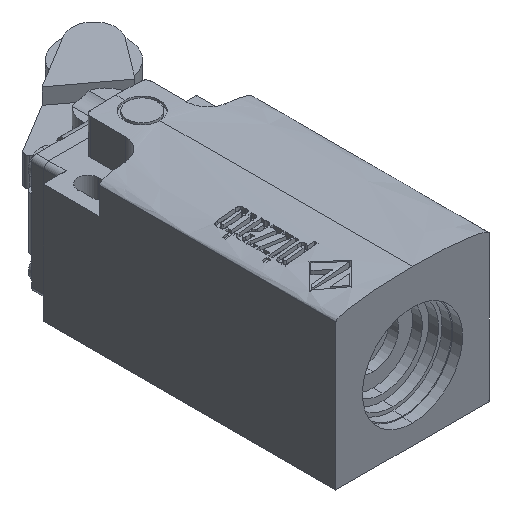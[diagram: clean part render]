
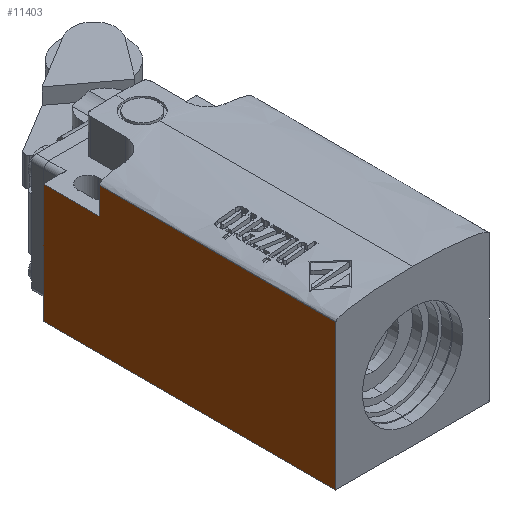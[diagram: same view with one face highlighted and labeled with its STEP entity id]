
A CAD part, isometric view. The second image highlights one B-rep face of the part: STEP entity #11403.
In plain terms, the highlighted planar face has unit normal (-1, 0, 0).
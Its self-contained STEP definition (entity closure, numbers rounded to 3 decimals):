
#134 = EDGE_CURVE ( 'NONE', #14176, #12741, #16544, .T. ) ;
#380 = LINE ( 'NONE', #8741, #12226 ) ;
#568 = DIRECTION ( 'NONE',  ( 0., -1., 0. ) ) ;
#1736 = PLANE ( 'NONE',  #9473 ) ;
#2152 = CARTESIAN_POINT ( 'NONE',  ( -15.6, -31.5, -12.2 ) ) ;
#2350 = CARTESIAN_POINT ( 'NONE',  ( -15.6, 16.7, 17.4 ) ) ;
#2390 = LINE ( 'NONE', #3512, #3809 ) ;
#2435 = VERTEX_POINT ( 'NONE', #5510 ) ;
#2931 = CARTESIAN_POINT ( 'NONE',  ( -15.6, 16.7, 12. ) ) ;
#3374 = LINE ( 'NONE', #14732, #14253 ) ;
#3403 = FACE_OUTER_BOUND ( 'NONE', #14388, .T. ) ;
#3508 = DIRECTION ( 'NONE',  ( 0., 1., 0. ) ) ;
#3512 = CARTESIAN_POINT ( 'NONE',  ( -15.6, -31.5, 19.4 ) ) ;
#3700 = ORIENTED_EDGE ( 'NONE', *, *, #13798, .T. ) ;
#3809 = VECTOR ( 'NONE', #5310, 1000. ) ;
#4114 = LINE ( 'NONE', #6755, #12423 ) ;
#5191 = EDGE_CURVE ( 'NONE', #5455, #7265, #3374, .T. ) ;
#5260 = CARTESIAN_POINT ( 'NONE',  ( -15.6, -15.433, 17.4 ) ) ;
#5310 = DIRECTION ( 'NONE',  ( 0., 0., -1. ) ) ;
#5455 = VERTEX_POINT ( 'NONE', #12499 ) ;
#5510 = CARTESIAN_POINT ( 'NONE',  ( -15.6, 28., -12.2 ) ) ;
#6660 = CARTESIAN_POINT ( 'NONE',  ( -15.6, -31.5, 17.4 ) ) ;
#6755 = CARTESIAN_POINT ( 'NONE',  ( -15.6, 16.7, 12. ) ) ;
#6946 = CARTESIAN_POINT ( 'NONE',  ( -15.6, -31.5, -12.2 ) ) ;
#7265 = VERTEX_POINT ( 'NONE', #2931 ) ;
#7442 = DIRECTION ( 'NONE',  ( 0., 0., -1. ) ) ;
#7905 = EDGE_CURVE ( 'NONE', #7265, #12741, #4114, .T. ) ;
#8135 = CARTESIAN_POINT ( 'NONE',  ( -15.6, 16.7, 17.4 ) ) ;
#8356 = ORIENTED_EDGE ( 'NONE', *, *, #7905, .F. ) ;
#8741 = CARTESIAN_POINT ( 'NONE',  ( -15.6, 28., 19.4 ) ) ;
#9093 = VECTOR ( 'NONE', #16884, 1000. ) ;
#9473 = AXIS2_PLACEMENT_3D ( 'NONE', #14962, #10641, #3508 ) ;
#10168 = ORIENTED_EDGE ( 'NONE', *, *, #5191, .F. ) ;
#10641 = DIRECTION ( 'NONE',  ( 1., 0., 0. ) ) ;
#11403 = ADVANCED_FACE ( 'NONE', ( #3403 ), #1736, .F. ) ;
#12226 = VECTOR ( 'NONE', #7442, 1000. ) ;
#12287 = CARTESIAN_POINT ( 'NONE',  ( -15.6, -31.5, 17.4 ) ) ;
#12315 = VERTEX_POINT ( 'NONE', #2152 ) ;
#12423 = VECTOR ( 'NONE', #18209, 1000. ) ;
#12499 = CARTESIAN_POINT ( 'NONE',  ( -15.6, 28., 12. ) ) ;
#12741 = VERTEX_POINT ( 'NONE', #8135 ) ;
#13549 = EDGE_CURVE ( 'NONE', #14176, #12315, #2390, .T. ) ;
#13798 = EDGE_CURVE ( 'NONE', #5455, #2435, #380, .T. ) ;
#13881 = CARTESIAN_POINT ( 'NONE',  ( -15.6, 0.633, 17.4 ) ) ;
#14176 = VERTEX_POINT ( 'NONE', #12287 ) ;
#14253 = VECTOR ( 'NONE', #568, 1000. ) ;
#14388 = EDGE_LOOP ( 'NONE', ( #17444, #14528, #8356, #10168, #3700, #18479 ) ) ;
#14528 = ORIENTED_EDGE ( 'NONE', *, *, #134, .T. ) ;
#14732 = CARTESIAN_POINT ( 'NONE',  ( -15.6, 28., 12. ) ) ;
#14962 = CARTESIAN_POINT ( 'NONE',  ( -15.6, -31.5, 19.4 ) ) ;
#15442 = EDGE_CURVE ( 'NONE', #2435, #12315, #15762, .T. ) ;
#15762 = LINE ( 'NONE', #6946, #9093 ) ;
#16544 = B_SPLINE_CURVE_WITH_KNOTS ( 'NONE', 3,
 ( #6660, #5260, #13881, #2350 ),
 .UNSPECIFIED., .F., .F.,
 ( 4, 4 ),
 ( 0., 1. ),
 .UNSPECIFIED. ) ;
#16884 = DIRECTION ( 'NONE',  ( 0., -1., 0. ) ) ;
#17444 = ORIENTED_EDGE ( 'NONE', *, *, #13549, .F. ) ;
#18209 = DIRECTION ( 'NONE',  ( 0., 0., 1. ) ) ;
#18479 = ORIENTED_EDGE ( 'NONE', *, *, #15442, .T. ) ;
